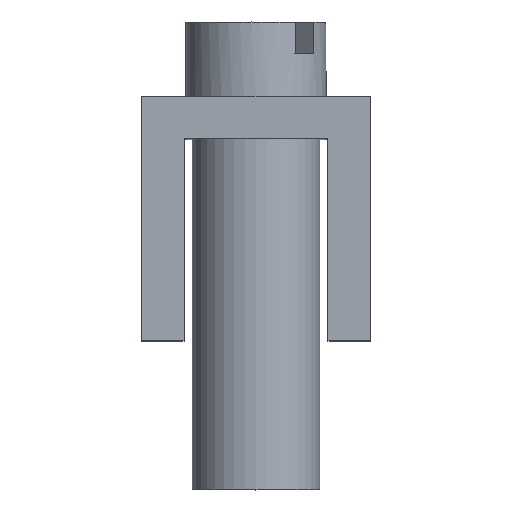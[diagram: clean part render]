
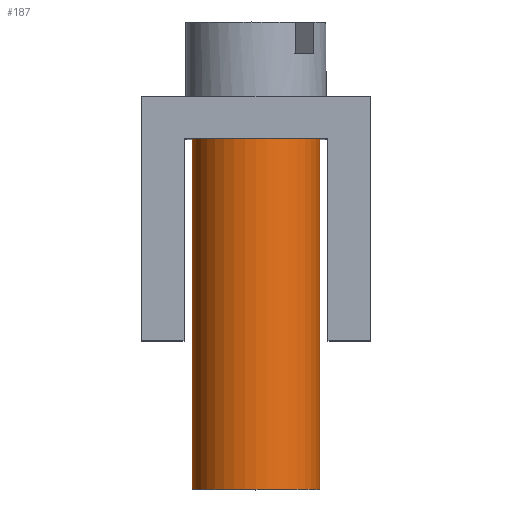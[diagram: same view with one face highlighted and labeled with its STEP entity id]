
A CAD part, top view. The second image highlights one B-rep face of the part: STEP entity #187.
In plain terms, the highlighted cylindrical face has radius 3 mm (diameter 6 mm), a partial arc.
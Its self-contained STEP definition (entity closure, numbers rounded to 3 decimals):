
#146=CARTESIAN_POINT('',(41.741,43.058,22.5));
#147=DIRECTION('',(-1.,0.,0.));
#148=DIRECTION('',(0.,-1.,0.));
#149=AXIS2_PLACEMENT_3D('',#146,#148,#147);
#150=CYLINDRICAL_SURFACE('',#149,3.);
#151=CARTESIAN_POINT('',(44.741,43.058,22.5));
#152=VERTEX_POINT('',#151);
#153=CARTESIAN_POINT('',(38.741,43.058,22.5));
#154=VERTEX_POINT('',#153);
#155=CARTESIAN_POINT('',(41.741,43.058,22.5));
#156=DIRECTION('',(1.,0.,0.));
#157=DIRECTION('',(0.,-1.,0.));
#158=AXIS2_PLACEMENT_3D('',#155,#157,#156);
#159=CIRCLE('',#158,3.);
#160=EDGE_CURVE('',#152,#154,#159,.T.);
#161=ORIENTED_EDGE('E26',*,*,#160,.T.);
#162=CARTESIAN_POINT('',(38.741,26.558,22.5));
#163=VERTEX_POINT('',#162);
#164=CARTESIAN_POINT('',(38.741,43.058,22.5));
#165=DIRECTION('',(0.,-1.,0.));
#166=VECTOR('',#165,16.5);
#167=LINE('',#164,#166);
#168=EDGE_CURVE('',#154,#163,#167,.T.);
#169=ORIENTED_EDGE('E27',*,*,#168,.T.);
#170=CARTESIAN_POINT('',(44.741,26.558,22.5));
#171=VERTEX_POINT('',#170);
#172=CARTESIAN_POINT('',(41.741,26.558,22.5));
#173=DIRECTION('',(-1.,0.,0.));
#174=DIRECTION('',(0.,1.,0.));
#175=AXIS2_PLACEMENT_3D('',#172,#174,#173);
#176=CIRCLE('',#175,3.);
#177=EDGE_CURVE('',#163,#171,#176,.T.);
#178=ORIENTED_EDGE('E28',*,*,#177,.T.);
#179=CARTESIAN_POINT('',(44.741,26.558,22.5));
#180=DIRECTION('',(0.,1.,0.));
#181=VECTOR('',#180,16.5);
#182=LINE('',#179,#181);
#183=EDGE_CURVE('',#171,#152,#182,.T.);
#184=ORIENTED_EDGE('E29',*,*,#183,.T.);
#185=EDGE_LOOP('',(#161,#169,#178,#184));
#186=FACE_OUTER_BOUND('',#185,.T.);
#187=ADVANCED_FACE('F7',(#186),#150,.T.);
